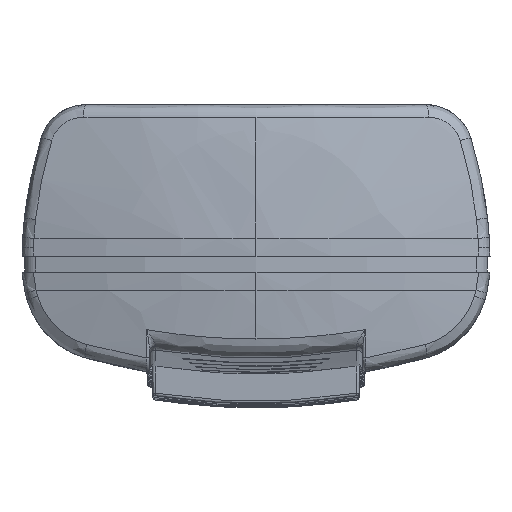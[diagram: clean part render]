
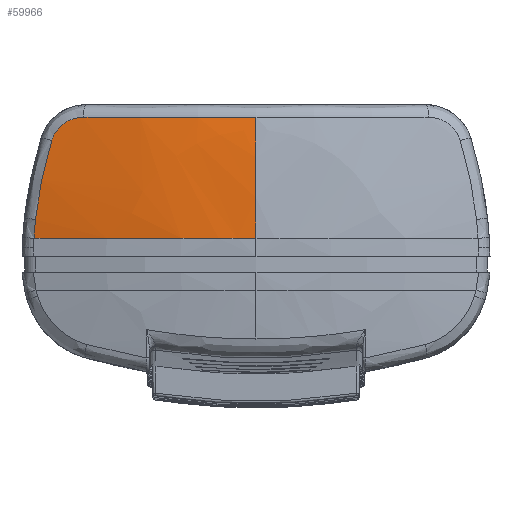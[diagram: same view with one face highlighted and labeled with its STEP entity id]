
A CAD part, front view. The second image highlights one B-rep face of the part: STEP entity #59966.
In plain terms, the highlighted spherical face has radius 69.984 mm.
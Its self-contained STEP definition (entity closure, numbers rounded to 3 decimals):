
#8627 = CARTESIAN_POINT ( 'NONE',  ( 0., -5., 1.442 ) ) ;
#21373 = CARTESIAN_POINT ( 'NONE',  ( -20.871, -71.754, 1.442 ) ) ;
#24501 = CARTESIAN_POINT ( 'NONE',  ( 0., -73.61, 12.796 ) ) ;
#27013 = CARTESIAN_POINT ( 'NONE',  ( -19.189, -71.288, 10.637 ) ) ;
#33173 = CARTESIAN_POINT ( 'NONE',  ( -17.512, -71.39, 12.547 ) ) ;
#33195 = DIRECTION ( 'NONE',  ( 0., 1., 0. ) ) ;
#42033 = EDGE_CURVE ( 'NONE', #281582, #203680, #154751, .T. ) ;
#42034 = AXIS2_PLACEMENT_3D ( 'NONE', #270790, #51117, #222629 ) ;
#51117 = DIRECTION ( 'NONE',  ( 0., -1., 0. ) ) ;
#51511 = CARTESIAN_POINT ( 'NONE',  ( -19.939, -71.496, 8.214 ) ) ;
#52054 = CIRCLE ( 'NONE', #296583, 69.984 ) ;
#57773 = CARTESIAN_POINT ( 'NONE',  ( -18.197, -71.292, 12.112 ) ) ;
#59868 = VERTEX_POINT ( 'NONE', #24501 ) ;
#59966 = ADVANCED_FACE ( 'NONE', ( #309311 ), #98583, .T. ) ;
#76210 = CARTESIAN_POINT ( 'NONE',  ( -20.451, -71.637, 5.738 ) ) ;
#80927 = ORIENTED_EDGE ( 'NONE', *, *, #198105, .T. ) ;
#82376 = CARTESIAN_POINT ( 'NONE',  ( -18.552, -71.26, 11.773 ) ) ;
#87507 = CARTESIAN_POINT ( 'NONE',  ( -20.786, -71.73, 2.621 ) ) ;
#87516 = EDGE_CURVE ( 'NONE', #152398, #59868, #52054, .T. ) ;
#98583 = SPHERICAL_SURFACE ( 'NONE', #42034, 69.984 ) ;
#100919 = DIRECTION ( 'NONE',  ( 0., 0., -1. ) ) ;
#107077 = CARTESIAN_POINT ( 'NONE',  ( -18.848, -71.251, 11.382 ) ) ;
#109162 = DIRECTION ( 'NONE',  ( -1., 0., 0. ) ) ;
#112534 = CIRCLE ( 'NONE', #277478, 68.61 ) ;
#117344 = CARTESIAN_POINT ( 'NONE',  ( -16.26, -71.656, 12.796 ) ) ;
#127193 = EDGE_CURVE ( 'NONE', #152398, #203680, #226619, .T. ) ;
#130607 = CARTESIAN_POINT ( 'NONE',  ( -16.26, -71.656, 12.796 ) ) ;
#131689 = CARTESIAN_POINT ( 'NONE',  ( -19.079, -71.265, 10.946 ) ) ;
#136798 = CARTESIAN_POINT ( 'NONE',  ( -20.871, -71.754, 1.442 ) ) ;
#150556 = VERTEX_POINT ( 'NONE', #117344 ) ;
#152398 = VERTEX_POINT ( 'NONE', #267390 ) ;
#154751 = B_SPLINE_CURVE_WITH_KNOTS ( 'NONE', 3,
 ( #283569, #87507, #160407, #136798 ),
 .UNSPECIFIED., .F., .F.,
 ( 4, 4 ),
 ( 0., 0.002 ),
 .UNSPECIFIED. ) ;
#156295 = CARTESIAN_POINT ( 'NONE',  ( -19.189, -71.288, 10.637 ) ) ;
#160407 = CARTESIAN_POINT ( 'NONE',  ( -20.836, -71.744, 2.032 ) ) ;
#167120 = CARTESIAN_POINT ( 'NONE',  ( -20.723, -71.712, 3.208 ) ) ;
#171517 = CARTESIAN_POINT ( 'NONE',  ( -19.189, -71.288, 10.637 ) ) ;
#179925 = CARTESIAN_POINT ( 'NONE',  ( -16.896, -71.508, 12.747 ) ) ;
#179947 = DIRECTION ( 'NONE',  ( 0., 0., -1. ) ) ;
#185142 = ORIENTED_EDGE ( 'NONE', *, *, #42033, .T. ) ;
#193934 = EDGE_CURVE ( 'NONE', #150556, #246913, #311423, .T. ) ;
#194811 = ORIENTED_EDGE ( 'NONE', *, *, #87516, .T. ) ;
#196097 = ORIENTED_EDGE ( 'NONE', *, *, #250919, .T. ) ;
#198105 = EDGE_CURVE ( 'NONE', #59868, #150556, #112534, .T. ) ;
#202035 = ORIENTED_EDGE ( 'NONE', *, *, #127193, .F. ) ;
#203680 = VERTEX_POINT ( 'NONE', #21373 ) ;
#204643 = CARTESIAN_POINT ( 'NONE',  ( -17.801, -71.343, 12.4 ) ) ;
#222629 = DIRECTION ( 'NONE',  ( 1., 0., 0. ) ) ;
#226619 = CIRCLE ( 'NONE', #256835, 69.941 ) ;
#229284 = CARTESIAN_POINT ( 'NONE',  ( -18.323, -71.279, 12.004 ) ) ;
#246913 = VERTEX_POINT ( 'NONE', #171517 ) ;
#247659 = CARTESIAN_POINT ( 'NONE',  ( -20.723, -71.712, 3.208 ) ) ;
#247737 = CARTESIAN_POINT ( 'NONE',  ( 0., -5., 12.796 ) ) ;
#248260 = EDGE_LOOP ( 'NONE', ( #202035, #194811, #80927, #317041, #196097, #185142 ) ) ;
#250919 = EDGE_CURVE ( 'NONE', #246913, #281582, #264651, .T. ) ;
#252852 = CARTESIAN_POINT ( 'NONE',  ( -16.581, -71.577, 12.796 ) ) ;
#253890 = CARTESIAN_POINT ( 'NONE',  ( -18.657, -71.254, 11.648 ) ) ;
#255955 = CARTESIAN_POINT ( 'NONE',  ( 0., -5., -1. ) ) ;
#256835 = AXIS2_PLACEMENT_3D ( 'NONE', #8627, #179947, #33195 ) ;
#264651 = B_SPLINE_CURVE_WITH_KNOTS ( 'NONE', 3,
 ( #27013, #51511, #76210, #247659 ),
 .UNSPECIFIED., .F., .F.,
 ( 4, 4 ),
 ( 0., 0.008 ),
 .UNSPECIFIED. ) ;
#267390 = CARTESIAN_POINT ( 'NONE',  ( 0., -74.941, 1.442 ) ) ;
#270790 = CARTESIAN_POINT ( 'NONE',  ( 0., -5., -1. ) ) ;
#272341 = DIRECTION ( 'NONE',  ( -1., 0., 0. ) ) ;
#277478 = AXIS2_PLACEMENT_3D ( 'NONE', #247737, #100919, #272341 ) ;
#278431 = CARTESIAN_POINT ( 'NONE',  ( -18.934, -71.253, 11.239 ) ) ;
#280515 = DIRECTION ( 'NONE',  ( 0., 0., -1. ) ) ;
#281582 = VERTEX_POINT ( 'NONE', #167120 ) ;
#283569 = CARTESIAN_POINT ( 'NONE',  ( -20.723, -71.712, 3.208 ) ) ;
#296583 = AXIS2_PLACEMENT_3D ( 'NONE', #255955, #109162, #280515 ) ;
#302952 = CARTESIAN_POINT ( 'NONE',  ( -19.14, -71.274, 10.794 ) ) ;
#309311 = FACE_OUTER_BOUND ( 'NONE', #248260, .T. ) ;
#311423 = B_SPLINE_CURVE_WITH_KNOTS ( 'NONE', 3,
 ( #130607, #252852, #179925, #33173, #204643, #57773, #229284, #82376, #253890, #107077, #278431, #131689, #302952, #156295 ),
 .UNSPECIFIED., .F., .F.,
 ( 4, 2, 2, 2, 2, 2, 4 ),
 ( 0., 0.001, 0.002, 0.002, 0.003, 0.003, 0.004 ),
 .UNSPECIFIED. ) ;
#317041 = ORIENTED_EDGE ( 'NONE', *, *, #193934, .T. ) ;
